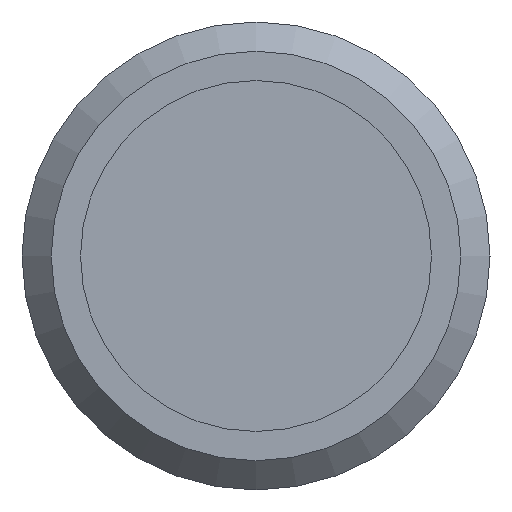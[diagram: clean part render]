
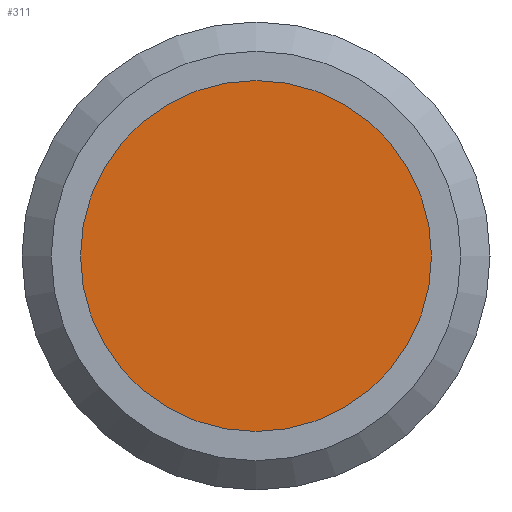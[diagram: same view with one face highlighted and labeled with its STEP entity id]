
A CAD part, left-side view. The second image highlights one B-rep face of the part: STEP entity #311.
In plain terms, the highlighted planar face has unit normal (-1, 0, 0).
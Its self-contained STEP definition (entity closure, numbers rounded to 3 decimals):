
#38=PLANE('',#366);
#54=FACE_OUTER_BOUND('',#81,.T.);
#81=EDGE_LOOP('',(#249));
#144=CIRCLE('',#367,3.);
#170=VERTEX_POINT('',#550);
#200=EDGE_CURVE('',#170,#170,#144,.T.);
#249=ORIENTED_EDGE('',*,*,#200,.F.);
#311=ADVANCED_FACE('',(#54),#38,.T.);
#366=AXIS2_PLACEMENT_3D('',#549,#439,#440);
#367=AXIS2_PLACEMENT_3D('',#551,#441,#442);
#439=DIRECTION('center_axis',(-1.,0.,0.));
#440=DIRECTION('ref_axis',(0.,0.,1.));
#441=DIRECTION('center_axis',(1.,0.,0.));
#442=DIRECTION('ref_axis',(0.,0.,-1.));
#549=CARTESIAN_POINT('Origin',(0.,3.,0.));
#550=CARTESIAN_POINT('',(0.,-3.,0.));
#551=CARTESIAN_POINT('Origin',(0.,0.,0.));
